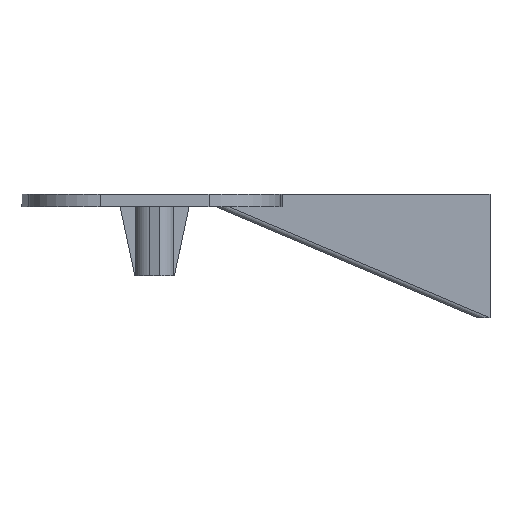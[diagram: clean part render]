
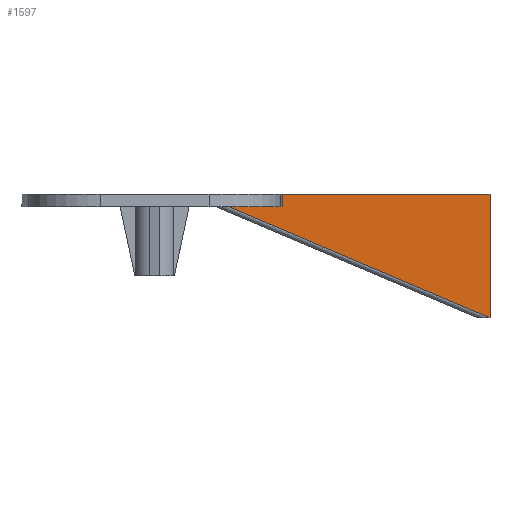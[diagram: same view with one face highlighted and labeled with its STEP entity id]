
A CAD part, left-side view. The second image highlights one B-rep face of the part: STEP entity #1597.
In plain terms, the highlighted planar face has unit normal (-1, 0, 0).
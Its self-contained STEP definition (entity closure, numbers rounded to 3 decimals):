
#469 = VERTEX_POINT ( 'NONE', #3862 ) ;
#508 = DIRECTION ( 'NONE',  ( 0., 0., 1. ) ) ;
#582 = EDGE_CURVE ( 'NONE', #469, #4078, #2875, .T. ) ;
#617 = ORIENTED_EDGE ( 'NONE', *, *, #2011, .F. ) ;
#654 = ORIENTED_EDGE ( 'NONE', *, *, #582, .T. ) ;
#739 = VERTEX_POINT ( 'NONE', #1772 ) ;
#747 = ORIENTED_EDGE ( 'NONE', *, *, #1602, .F. ) ;
#846 = CARTESIAN_POINT ( 'NONE',  ( -35., 2.5, 25. ) ) ;
#862 = VECTOR ( 'NONE', #2055, 1000. ) ;
#905 = VECTOR ( 'NONE', #3874, 1000. ) ;
#933 = VERTEX_POINT ( 'NONE', #1958 ) ;
#1026 = DIRECTION ( 'NONE',  ( 0., -1., 0. ) ) ;
#1112 = LINE ( 'NONE', #1747, #1992 ) ;
#1156 = DIRECTION ( 'NONE',  ( 0., 0., 1. ) ) ;
#1265 = VERTEX_POINT ( 'NONE', #3386 ) ;
#1308 = DIRECTION ( 'NONE',  ( 0., -0.92, -0.391 ) ) ;
#1463 = EDGE_CURVE ( 'NONE', #739, #933, #3657, .T. ) ;
#1502 = CARTESIAN_POINT ( 'NONE',  ( -35., 2.5, 22.5 ) ) ;
#1589 = VECTOR ( 'NONE', #1156, 1000. ) ;
#1597 = ADVANCED_FACE ( 'NONE', ( #2536 ), #3820, .T. ) ;
#1602 = EDGE_CURVE ( 'NONE', #933, #1265, #2770, .T. ) ;
#1734 = CARTESIAN_POINT ( 'NONE',  ( -35., 42., 22.5 ) ) ;
#1747 = CARTESIAN_POINT ( 'NONE',  ( -35., 55.5, 22.5 ) ) ;
#1772 = CARTESIAN_POINT ( 'NONE',  ( -35., 42., 24.99 ) ) ;
#1901 = CARTESIAN_POINT ( 'NONE',  ( -35., 2.109, 0.92 ) ) ;
#1958 = CARTESIAN_POINT ( 'NONE',  ( -35., 42., 25. ) ) ;
#1992 = VECTOR ( 'NONE', #1026, 1000. ) ;
#2011 = EDGE_CURVE ( 'NONE', #2258, #739, #4071, .T. ) ;
#2055 = DIRECTION ( 'NONE',  ( 0., 0., 1. ) ) ;
#2083 = ORIENTED_EDGE ( 'NONE', *, *, #1463, .F. ) ;
#2118 = VECTOR ( 'NONE', #1308, 1000. ) ;
#2134 = CARTESIAN_POINT ( 'NONE',  ( -35., 42., 22.5 ) ) ;
#2139 = DIRECTION ( 'NONE',  ( 0., -1., 0. ) ) ;
#2217 = VECTOR ( 'NONE', #2139, 1000. ) ;
#2258 = VERTEX_POINT ( 'NONE', #1734 ) ;
#2376 = CARTESIAN_POINT ( 'NONE',  ( -35., 42., 24.99 ) ) ;
#2381 = ORIENTED_EDGE ( 'NONE', *, *, #3934, .F. ) ;
#2536 = FACE_OUTER_BOUND ( 'NONE', #2653, .T. ) ;
#2585 = ORIENTED_EDGE ( 'NONE', *, *, #3802, .T. ) ;
#2653 = EDGE_LOOP ( 'NONE', ( #2381, #654, #2585, #747, #2083, #617 ) ) ;
#2770 = LINE ( 'NONE', #846, #2217 ) ;
#2875 = LINE ( 'NONE', #1901, #2118 ) ;
#3232 = CARTESIAN_POINT ( 'NONE',  ( -35., 0., 0. ) ) ;
#3386 = CARTESIAN_POINT ( 'NONE',  ( -35., 0., 25. ) ) ;
#3481 = DIRECTION ( 'NONE',  ( -1., 0., 0. ) ) ;
#3516 = LINE ( 'NONE', #3232, #905 ) ;
#3657 = LINE ( 'NONE', #2376, #862 ) ;
#3802 = EDGE_CURVE ( 'NONE', #4078, #1265, #3516, .T. ) ;
#3820 = PLANE ( 'NONE',  #4056 ) ;
#3862 = CARTESIAN_POINT ( 'NONE',  ( -35., 52.941, 22.5 ) ) ;
#3874 = DIRECTION ( 'NONE',  ( 0., 0., 1. ) ) ;
#3934 = EDGE_CURVE ( 'NONE', #469, #2258, #1112, .T. ) ;
#4056 = AXIS2_PLACEMENT_3D ( 'NONE', #1502, #3481, #508 ) ;
#4071 = LINE ( 'NONE', #2134, #1589 ) ;
#4078 = VERTEX_POINT ( 'NONE', #4184 ) ;
#4184 = CARTESIAN_POINT ( 'NONE',  ( -35., 0., 0.025 ) ) ;
